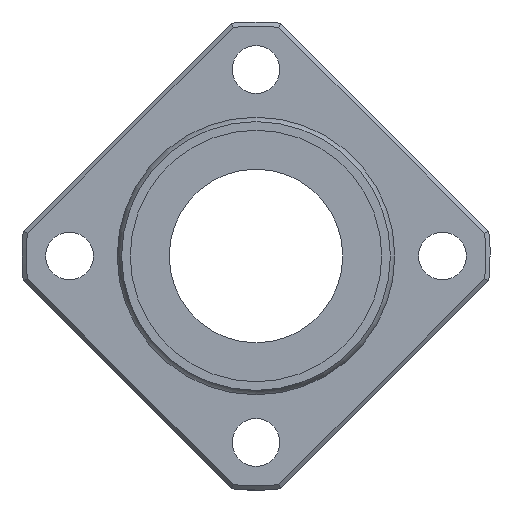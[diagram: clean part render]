
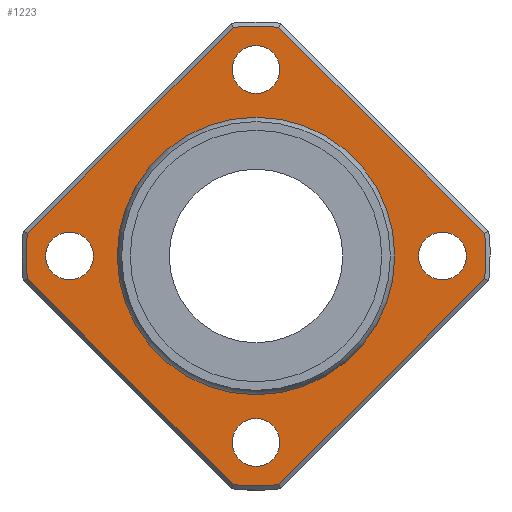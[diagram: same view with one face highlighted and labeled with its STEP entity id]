
A CAD part, left-side view. The second image highlights one B-rep face of the part: STEP entity #1223.
In plain terms, the highlighted planar face has unit normal (-1, 0, 0).
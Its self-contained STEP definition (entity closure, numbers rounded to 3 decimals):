
#799=CARTESIAN_POINT('',(-30.,26.37,2.621));
#800=VERTEX_POINT('',#799);
#808=CARTESIAN_POINT('',(-30.,2.621,26.37));
#809=VERTEX_POINT('',#808);
#810=CARTESIAN_POINT('',(-30.,26.37,2.621));
#811=DIRECTION('',(0.0,-0.707,0.707));
#812=VECTOR('',#811,33.586);
#813=LINE('',#810,#812);
#814=EDGE_CURVE('',#800,#809,#813,.T.);
#841=CARTESIAN_POINT('',(-30.,-2.621,26.37));
#842=VERTEX_POINT('',#841);
#843=CARTESIAN_POINT('',(-30.,0.0,0.0));
#844=DIRECTION('',(1.0,0.0,0.0));
#845=DIRECTION('',(0.0,0.0,1.0));
#846=AXIS2_PLACEMENT_3D('',#843,#844,#845);
#847=CIRCLE('',#846,26.5);
#848=EDGE_CURVE('',#809,#842,#847,.T.);
#874=CARTESIAN_POINT('',(-30.,-26.37,2.621));
#875=VERTEX_POINT('',#874);
#876=CARTESIAN_POINT('',(-30.,-2.621,26.37));
#877=DIRECTION('',(0.0,-0.707,-0.707));
#878=VECTOR('',#877,33.586);
#879=LINE('',#876,#878);
#880=EDGE_CURVE('',#842,#875,#879,.T.);
#907=CARTESIAN_POINT('',(-30.,-26.37,-2.621));
#908=VERTEX_POINT('',#907);
#909=CARTESIAN_POINT('',(-30.,0.0,0.0));
#910=DIRECTION('',(1.0,0.0,0.0));
#911=DIRECTION('',(0.0,0.0,1.0));
#912=AXIS2_PLACEMENT_3D('',#909,#910,#911);
#913=CIRCLE('',#912,26.5);
#914=EDGE_CURVE('',#875,#908,#913,.T.);
#940=CARTESIAN_POINT('',(-30.,-2.621,-26.37));
#941=VERTEX_POINT('',#940);
#942=CARTESIAN_POINT('',(-30.,-26.37,-2.621));
#943=DIRECTION('',(0.0,0.707,-0.707));
#944=VECTOR('',#943,33.586);
#945=LINE('',#942,#944);
#946=EDGE_CURVE('',#908,#941,#945,.T.);
#973=CARTESIAN_POINT('',(-30.,2.621,-26.37));
#974=VERTEX_POINT('',#973);
#975=CARTESIAN_POINT('',(-30.,0.0,0.0));
#976=DIRECTION('',(1.0,0.0,0.0));
#977=DIRECTION('',(0.0,0.0,-1.0));
#978=AXIS2_PLACEMENT_3D('',#975,#976,#977);
#979=CIRCLE('',#978,26.5);
#980=EDGE_CURVE('',#941,#974,#979,.T.);
#1006=CARTESIAN_POINT('',(-30.,26.37,-2.621));
#1007=VERTEX_POINT('',#1006);
#1008=CARTESIAN_POINT('',(-30.,2.621,-26.37));
#1009=DIRECTION('',(0.0,0.707,0.707));
#1010=VECTOR('',#1009,33.586);
#1011=LINE('',#1008,#1010);
#1012=EDGE_CURVE('',#974,#1007,#1011,.T.);
#1037=CARTESIAN_POINT('',(-30.,0.0,0.0));
#1038=DIRECTION('',(1.0,0.0,0.0));
#1039=DIRECTION('',(0.0,0.0,1.0));
#1040=AXIS2_PLACEMENT_3D('',#1037,#1038,#1039);
#1041=CIRCLE('',#1040,26.5);
#1042=EDGE_CURVE('',#1007,#800,#1041,.T.);
#1153=CARTESIAN_POINT('',(-30.,0.0,21.387));
#1154=DIRECTION('',(-1.0,0.0,0.0));
#1155=DIRECTION('',(0.0,0.0,1.0));
#1156=AXIS2_PLACEMENT_3D('',#1153,#1154,#1155);
#1157=PLANE('',#1156);
#1158=ORIENTED_EDGE('',*,*,#814,.F.);
#1159=ORIENTED_EDGE('',*,*,#1042,.F.);
#1160=ORIENTED_EDGE('',*,*,#1012,.F.);
#1161=ORIENTED_EDGE('',*,*,#980,.F.);
#1162=ORIENTED_EDGE('',*,*,#946,.F.);
#1163=ORIENTED_EDGE('',*,*,#914,.F.);
#1164=ORIENTED_EDGE('',*,*,#880,.F.);
#1165=ORIENTED_EDGE('',*,*,#848,.F.);
#1166=EDGE_LOOP('',(#1158,#1159,#1160,#1161,#1162,#1163,#1164,#1165));
#1167=FACE_OUTER_BOUND('',#1166,.T.);
#1168=CARTESIAN_POINT('',(-30.,0.0,15.773));
#1169=VERTEX_POINT('',#1168);
#1170=CARTESIAN_POINT('',(-30.,0.0,0.0));
#1171=DIRECTION('',(-1.0,0.0,0.0));
#1172=DIRECTION('',(0.0,0.0,1.0));
#1173=AXIS2_PLACEMENT_3D('',#1170,#1171,#1172);
#1174=CIRCLE('',#1173,15.773);
#1175=EDGE_CURVE('',#1169,#1169,#1174,.T.);
#1176=ORIENTED_EDGE('',*,*,#1175,.F.);
#1177=EDGE_LOOP('',(#1176));
#1178=FACE_BOUND('',#1177,.T.);
#1179=CARTESIAN_POINT('',(-30.0,18.75,0.));
#1180=VERTEX_POINT('',#1179);
#1181=CARTESIAN_POINT('',(-30.0,21.5,0.));
#1182=DIRECTION('',(1.0,0.0,0.0));
#1183=DIRECTION('',(0.0,1.0,0.0));
#1184=AXIS2_PLACEMENT_3D('',#1181,#1182,#1183);
#1185=CIRCLE('',#1184,2.75);
#1186=EDGE_CURVE('',#1180,#1180,#1185,.T.);
#1187=ORIENTED_EDGE('',*,*,#1186,.T.);
#1188=EDGE_LOOP('',(#1187));
#1189=FACE_BOUND('',#1188,.T.);
#1190=CARTESIAN_POINT('',(-30.0,-24.25,0.));
#1191=VERTEX_POINT('',#1190);
#1192=CARTESIAN_POINT('',(-30.0,-21.5,0.0));
#1193=DIRECTION('',(1.0,0.0,0.0));
#1194=DIRECTION('',(0.0,1.0,0.0));
#1195=AXIS2_PLACEMENT_3D('',#1192,#1193,#1194);
#1196=CIRCLE('',#1195,2.75);
#1197=EDGE_CURVE('',#1191,#1191,#1196,.T.);
#1198=ORIENTED_EDGE('',*,*,#1197,.T.);
#1199=EDGE_LOOP('',(#1198));
#1200=FACE_BOUND('',#1199,.T.);
#1201=CARTESIAN_POINT('',(-30.0,-2.75,21.5));
#1202=VERTEX_POINT('',#1201);
#1203=CARTESIAN_POINT('',(-30.0,0.,21.5));
#1204=DIRECTION('',(1.0,0.0,0.0));
#1205=DIRECTION('',(0.0,1.0,0.0));
#1206=AXIS2_PLACEMENT_3D('',#1203,#1204,#1205);
#1207=CIRCLE('',#1206,2.75);
#1208=EDGE_CURVE('',#1202,#1202,#1207,.T.);
#1209=ORIENTED_EDGE('',*,*,#1208,.T.);
#1210=EDGE_LOOP('',(#1209));
#1211=FACE_BOUND('',#1210,.T.);
#1212=CARTESIAN_POINT('',(-30.0,-2.75,-21.5));
#1213=VERTEX_POINT('',#1212);
#1214=CARTESIAN_POINT('',(-30.0,0.,-21.5));
#1215=DIRECTION('',(1.0,0.0,0.0));
#1216=DIRECTION('',(0.0,1.0,0.0));
#1217=AXIS2_PLACEMENT_3D('',#1214,#1215,#1216);
#1218=CIRCLE('',#1217,2.75);
#1219=EDGE_CURVE('',#1213,#1213,#1218,.T.);
#1220=ORIENTED_EDGE('',*,*,#1219,.T.);
#1221=EDGE_LOOP('',(#1220));
#1222=FACE_BOUND('',#1221,.T.);
#1223=ADVANCED_FACE('',(#1167,#1178,#1189,#1200,#1211,#1222),#1157,.T.);
